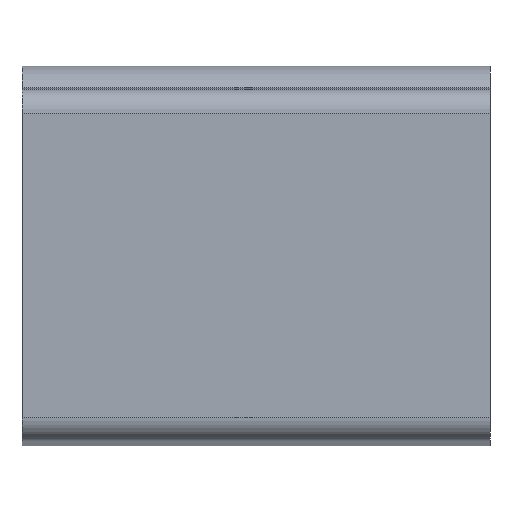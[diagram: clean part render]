
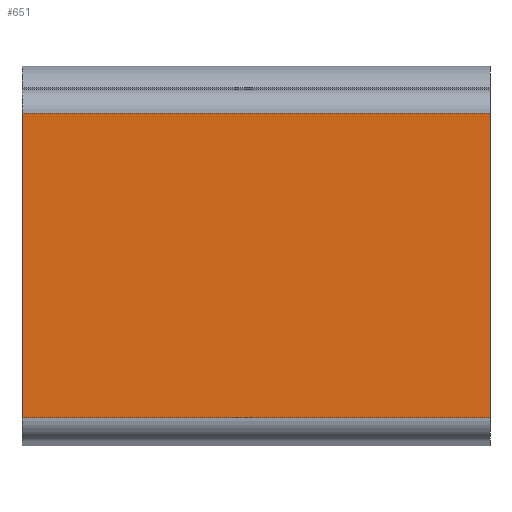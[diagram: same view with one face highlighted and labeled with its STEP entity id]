
A CAD part, front view. The second image highlights one B-rep face of the part: STEP entity #651.
In plain terms, the highlighted planar face has unit normal (0, -1, 0).
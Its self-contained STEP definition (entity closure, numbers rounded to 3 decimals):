
#599=CARTESIAN_POINT('Vertex',(20.,-6.,28.5)) ;
#606=CARTESIAN_POINT('Vertex',(-20.,-6.,28.5)) ;
#609=CARTESIAN_POINT('Line Origine',(0.,-6.,28.5)) ;
#621=CARTESIAN_POINT('Axis2P3D Location',(0.,-6.,0.7)) ;
#626=CARTESIAN_POINT('Line Origine',(0.,-6.,2.48)) ;
#630=CARTESIAN_POINT('Vertex',(-20.,-6.,2.48)) ;
#632=CARTESIAN_POINT('Vertex',(20.,-6.,2.48)) ;
#635=CARTESIAN_POINT('Line Origine',(20.,-6.,15.49)) ;
#640=CARTESIAN_POINT('Line Origine',(-20.,-6.,15.49)) ;
#611=VECTOR('Line Direction',#610,1.) ;
#628=VECTOR('Line Direction',#627,1.) ;
#637=VECTOR('Line Direction',#636,1.) ;
#642=VECTOR('Line Direction',#641,1.) ;
#610=DIRECTION('Vector Direction',(1.,0.,0.)) ;
#622=DIRECTION('Axis2P3D Direction',(0.,1.,0.)) ;
#623=DIRECTION('Axis2P3D XDirection',(0.,0.,1.)) ;
#627=DIRECTION('Vector Direction',(1.,0.,0.)) ;
#636=DIRECTION('Vector Direction',(0.,0.,1.)) ;
#641=DIRECTION('Vector Direction',(0.,0.,1.)) ;
#624=AXIS2_PLACEMENT_3D('Plane Axis2P3D',#621,#622,#623) ;
#612=LINE('Line',#609,#611) ;
#629=LINE('Line',#626,#628) ;
#638=LINE('Line',#635,#637) ;
#643=LINE('Line',#640,#642) ;
#625=PLANE('',#624) ;
#613=EDGE_CURVE('',#607,#600,#612,.T.) ;
#634=EDGE_CURVE('',#631,#633,#629,.T.) ;
#639=EDGE_CURVE('',#600,#633,#638,.F.) ;
#644=EDGE_CURVE('',#607,#631,#643,.F.) ;
#645=EDGE_LOOP('',(#646,#647,#648,#649)) ;
#646=ORIENTED_EDGE('',*,*,#634,.T.) ;
#647=ORIENTED_EDGE('',*,*,#639,.F.) ;
#648=ORIENTED_EDGE('',*,*,#613,.F.) ;
#649=ORIENTED_EDGE('',*,*,#644,.T.) ;
#600=VERTEX_POINT('',#599) ;
#607=VERTEX_POINT('',#606) ;
#631=VERTEX_POINT('',#630) ;
#633=VERTEX_POINT('',#632) ;
#651=ADVANCED_FACE('PartBody',(#650),#625,.F.) ;
#650=FACE_OUTER_BOUND('',#645,.T.) ;
